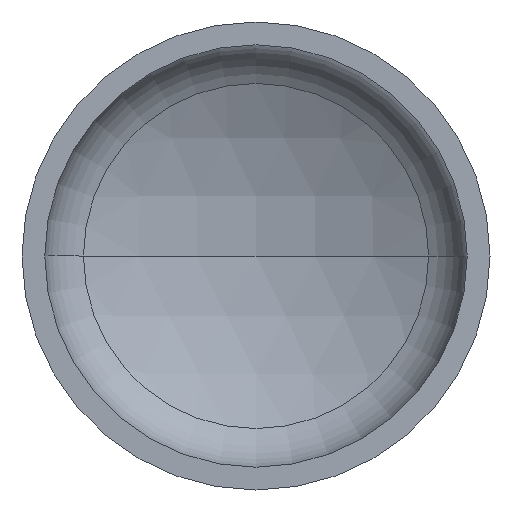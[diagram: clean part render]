
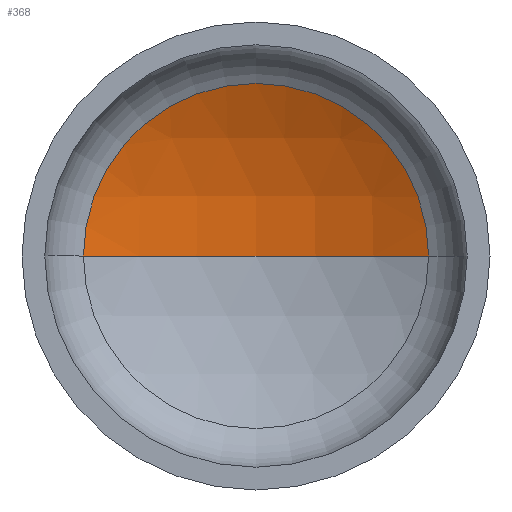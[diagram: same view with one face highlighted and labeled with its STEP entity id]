
A CAD part, front view. The second image highlights one B-rep face of the part: STEP entity #368.
In plain terms, the highlighted spherical face has radius 1280 mm.
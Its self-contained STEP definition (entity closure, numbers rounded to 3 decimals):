
#4 = DIRECTION ( 'NONE',  ( 1., 0., 0. ) ) ;
#14 = EDGE_LOOP ( 'NONE', ( #111, #103, #44 ) ) ;
#25 = VERTEX_POINT ( 'NONE', #262 ) ;
#33 = AXIS2_PLACEMENT_3D ( 'NONE', #257, #392, #4 ) ;
#44 = ORIENTED_EDGE ( 'NONE', *, *, #95, .T. ) ;
#45 = AXIS2_PLACEMENT_3D ( 'NONE', #208, #209, #327 ) ;
#46 = AXIS2_PLACEMENT_3D ( 'NONE', #235, #227, #224 ) ;
#90 = VERTEX_POINT ( 'NONE', #377 ) ;
#91 = VERTEX_POINT ( 'NONE', #249 ) ;
#95 = EDGE_CURVE ( 'NONE', #91, #90, #222, .T. ) ;
#96 = EDGE_CURVE ( 'NONE', #25, #91, #161, .T. ) ;
#103 = ORIENTED_EDGE ( 'NONE', *, *, #96, .T. ) ;
#111 = ORIENTED_EDGE ( 'NONE', *, *, #139, .F. ) ;
#139 = EDGE_CURVE ( 'NONE', #25, #90, #274, .T. ) ;
#140 = DIRECTION ( 'NONE',  ( 0., 0., -1. ) ) ;
#147 = DIRECTION ( 'NONE',  ( -1., 0., 0. ) ) ;
#161 = CIRCLE ( 'NONE', #45, 1280. ) ;
#175 = AXIS2_PLACEMENT_3D ( 'NONE', #300, #140, #147 ) ;
#180 = FACE_OUTER_BOUND ( 'NONE', #14, .T. ) ;
#208 = CARTESIAN_POINT ( 'NONE',  ( 0., -798.529, 0. ) ) ;
#209 = DIRECTION ( 'NONE',  ( 0., 0., -1. ) ) ;
#222 = CIRCLE ( 'NONE', #46, 589.913 ) ;
#224 = DIRECTION ( 'NONE',  ( 1., 0., 0. ) ) ;
#227 = DIRECTION ( 'NONE',  ( 0., -1., 0. ) ) ;
#235 = CARTESIAN_POINT ( 'NONE',  ( 0., 337.43, 0. ) ) ;
#249 = CARTESIAN_POINT ( 'NONE',  ( 589.913, 337.43, 0. ) ) ;
#257 = CARTESIAN_POINT ( 'NONE',  ( 0., -798.529, 0. ) ) ;
#262 = CARTESIAN_POINT ( 'NONE',  ( 0., 481.471, 0. ) ) ;
#274 = CIRCLE ( 'NONE', #33, 1280. ) ;
#288 = SPHERICAL_SURFACE ( 'NONE', #175, 1280. ) ;
#300 = CARTESIAN_POINT ( 'NONE',  ( 0., -798.529, 0. ) ) ;
#327 = DIRECTION ( 'NONE',  ( -1., 0., 0. ) ) ;
#368 = ADVANCED_FACE ( 'NONE', ( #180 ), #288, .F. ) ;
#377 = CARTESIAN_POINT ( 'NONE',  ( -589.913, 337.43, 0. ) ) ;
#392 = DIRECTION ( 'NONE',  ( 0., 0., 1. ) ) ;
